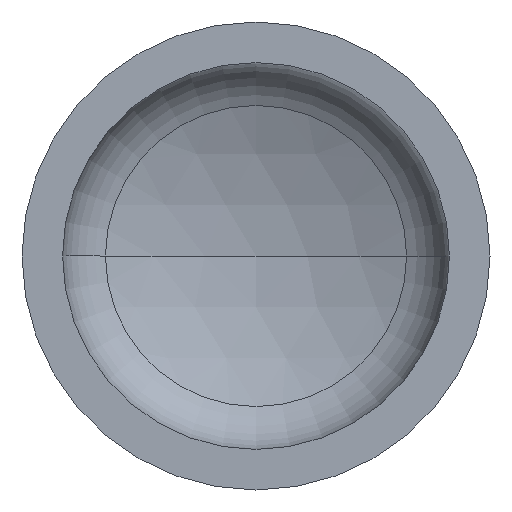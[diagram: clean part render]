
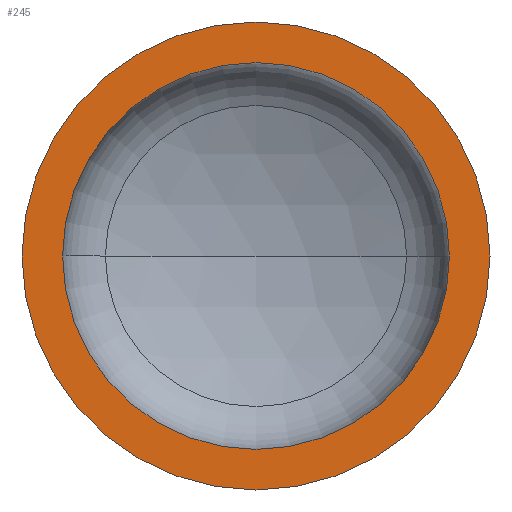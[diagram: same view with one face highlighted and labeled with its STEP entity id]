
A CAD part, front view. The second image highlights one B-rep face of the part: STEP entity #245.
In plain terms, the highlighted planar face has unit normal (0, -1, 0).
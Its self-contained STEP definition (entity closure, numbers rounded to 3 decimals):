
#6 = CARTESIAN_POINT ( 'NONE',  ( -248., 0., 0. ) ) ;
#26 = AXIS2_PLACEMENT_3D ( 'NONE', #38, #36, #32 ) ;
#27 = AXIS2_PLACEMENT_3D ( 'NONE', #153, #91, #158 ) ;
#31 = AXIS2_PLACEMENT_3D ( 'NONE', #212, #244, #243 ) ;
#32 = DIRECTION ( 'NONE',  ( 1., 0., 0. ) ) ;
#36 = DIRECTION ( 'NONE',  ( 0., -1., 0. ) ) ;
#38 = CARTESIAN_POINT ( 'NONE',  ( 0., 0., 0. ) ) ;
#44 = AXIS2_PLACEMENT_3D ( 'NONE', #289, #273, #266 ) ;
#45 = AXIS2_PLACEMENT_3D ( 'NONE', #288, #283, #281 ) ;
#49 = CIRCLE ( 'NONE', #31, 300. ) ;
#71 = EDGE_CURVE ( 'NONE', #221, #381, #394, .T. ) ;
#73 = EDGE_CURVE ( 'NONE', #129, #201, #247, .T. ) ;
#86 = ORIENTED_EDGE ( 'NONE', *, *, #71, .T. ) ;
#91 = DIRECTION ( 'NONE',  ( 0., 1., 0. ) ) ;
#94 = ORIENTED_EDGE ( 'NONE', *, *, #284, .F. ) ;
#99 = EDGE_LOOP ( 'NONE', ( #360, #94 ) ) ;
#129 = VERTEX_POINT ( 'NONE', #168 ) ;
#153 = CARTESIAN_POINT ( 'NONE',  ( -300., 0., 0. ) ) ;
#158 = DIRECTION ( 'NONE',  ( -1., 0., 0. ) ) ;
#160 = CARTESIAN_POINT ( 'NONE',  ( 300., 0., 0. ) ) ;
#168 = CARTESIAN_POINT ( 'NONE',  ( 248., 0., 0. ) ) ;
#197 = ORIENTED_EDGE ( 'NONE', *, *, #261, .T. ) ;
#201 = VERTEX_POINT ( 'NONE', #6 ) ;
#203 = PLANE ( 'NONE',  #27 ) ;
#205 = EDGE_LOOP ( 'NONE', ( #197, #86 ) ) ;
#212 = CARTESIAN_POINT ( 'NONE',  ( 0., 0., 0. ) ) ;
#220 = FACE_OUTER_BOUND ( 'NONE', #205, .T. ) ;
#221 = VERTEX_POINT ( 'NONE', #231 ) ;
#226 = FACE_BOUND ( 'NONE', #99, .T. ) ;
#231 = CARTESIAN_POINT ( 'NONE',  ( -300., 0., 0. ) ) ;
#243 = DIRECTION ( 'NONE',  ( 1., 0., 0. ) ) ;
#244 = DIRECTION ( 'NONE',  ( 0., -1., 0. ) ) ;
#245 = ADVANCED_FACE ( 'NONE', ( #226, #220 ), #203, .F. ) ;
#247 = CIRCLE ( 'NONE', #44, 248. ) ;
#261 = EDGE_CURVE ( 'NONE', #381, #221, #49, .T. ) ;
#266 = DIRECTION ( 'NONE',  ( 1., 0., 0. ) ) ;
#273 = DIRECTION ( 'NONE',  ( 0., -1., 0. ) ) ;
#281 = DIRECTION ( 'NONE',  ( 1., 0., 0. ) ) ;
#283 = DIRECTION ( 'NONE',  ( 0., -1., 0. ) ) ;
#284 = EDGE_CURVE ( 'NONE', #201, #129, #297, .T. ) ;
#288 = CARTESIAN_POINT ( 'NONE',  ( 0., 0., 0. ) ) ;
#289 = CARTESIAN_POINT ( 'NONE',  ( 0., 0., 0. ) ) ;
#297 = CIRCLE ( 'NONE', #26, 248. ) ;
#360 = ORIENTED_EDGE ( 'NONE', *, *, #73, .F. ) ;
#381 = VERTEX_POINT ( 'NONE', #160 ) ;
#394 = CIRCLE ( 'NONE', #45, 300. ) ;
